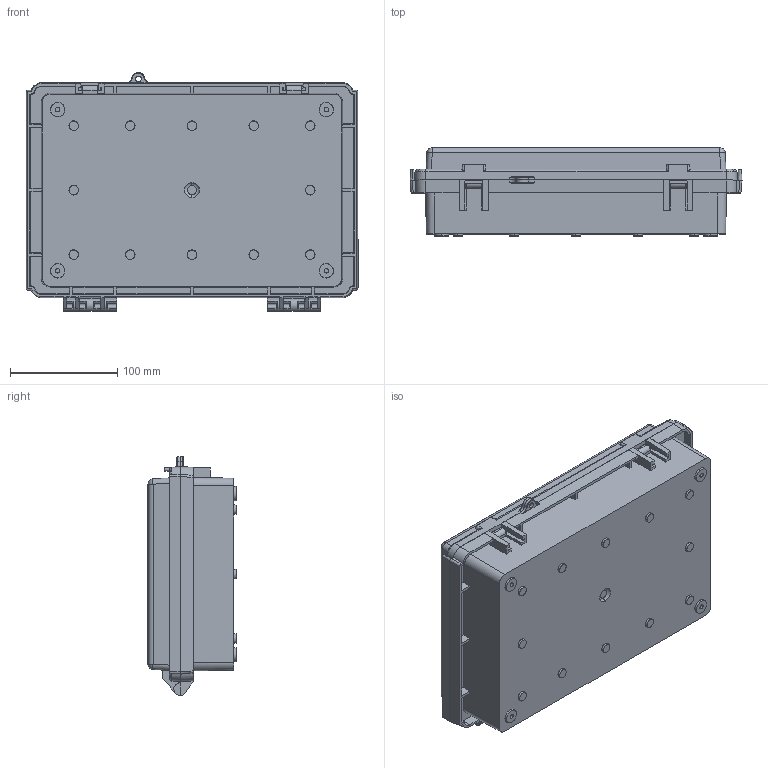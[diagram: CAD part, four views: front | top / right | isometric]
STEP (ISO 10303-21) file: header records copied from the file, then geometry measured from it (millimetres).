
FILE_DESCRIPTION (( 'STEP AP203' ), '1' );
FILE_NAME ('EC-2030-8.STEP', '2023-07-28T05:49:34', ( '' ), ( '' ), 'SwSTEP 2.0', 'SolidWorks 2021', '' );
FILE_SCHEMA (( 'CONFIG_CONTROL_DESIGN' ));
Length unit declared in the file: millimetre
Products named in the file (3): EC-2030-P-1; EC-2030-8; EC-2030-P-2-50
Assembly tree (2 placements, depth 2):
  EC-2030-8
    EC-2030-P-2-50
    EC-2030-P-1
Bounding box: 309 x 82 x 222.4 mm (x, y, z)
Volume: 738296.1 mm3; surface area: 427956.5 mm2
Topology: 2 solids, 2 shells, 625 faces, 1638 edges, 1050 vertices
Faces by surface type: plane 363, cylinder 104, cone 96, bspline 40, torus 13, sphere 9
Entity records: 20719 total; most frequent: CARTESIAN_POINT 5491, ORIENTED_EDGE 3254, DIRECTION 2926, EDGE_CURVE 1627, VECTOR 1056, LINE 1056, VERTEX_POINT 1048, AXIS2_PLACEMENT_3D 935
